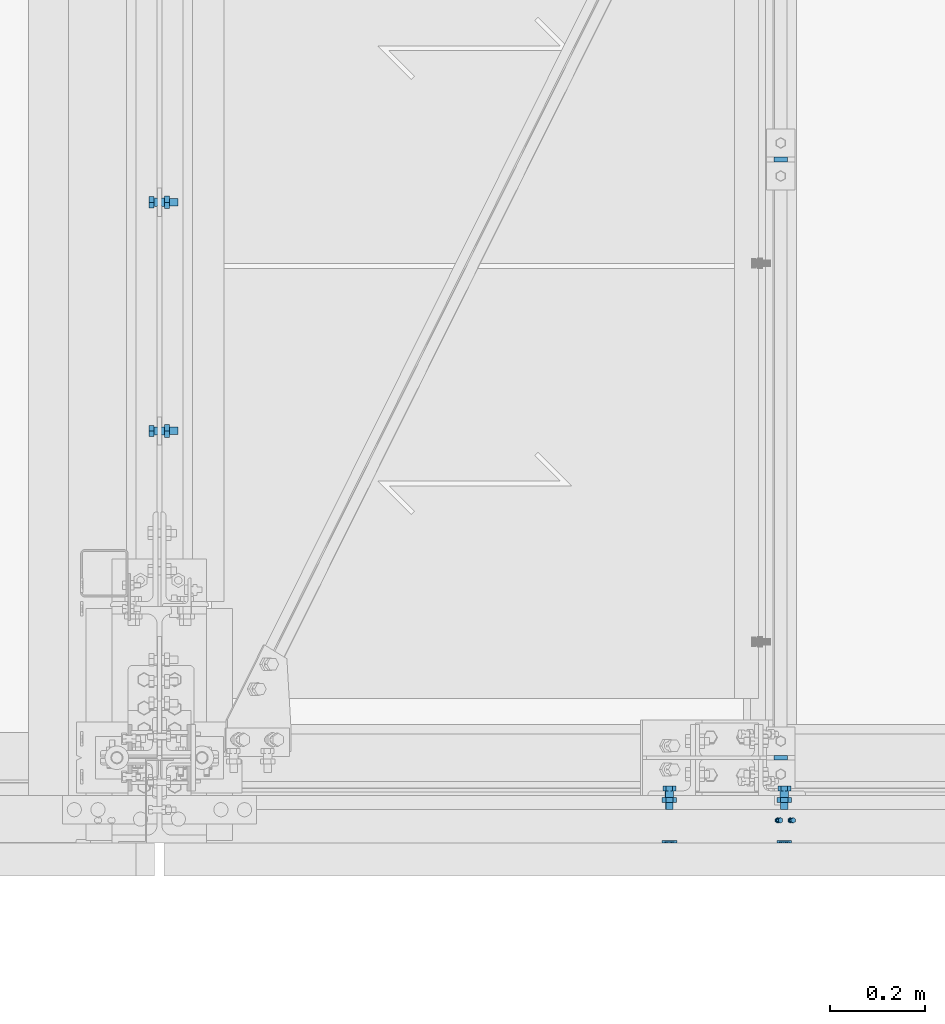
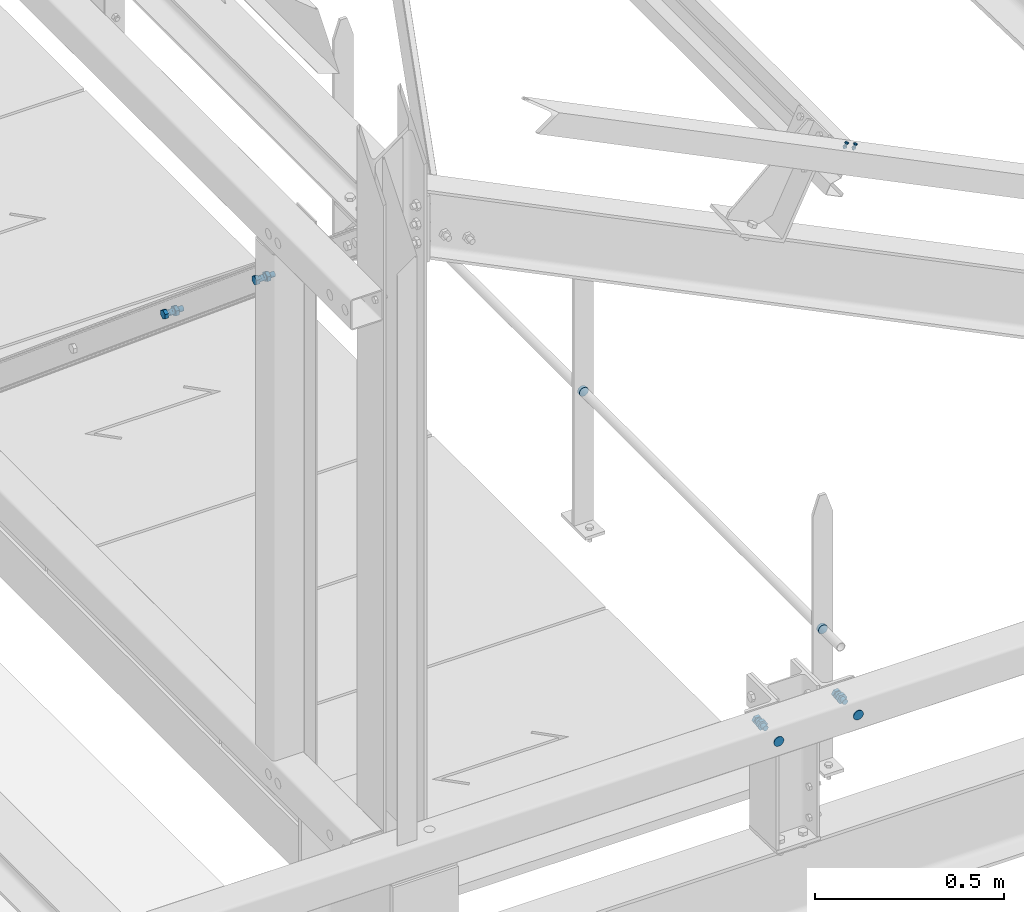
# One storey, part 310 of 362: 9 mechanical fasteners.
"""IFC2X3 building model written with IfcOpenShell, lengths in millimetres."""

from ifc_helpers import new_model, si_unit, frame, origin_with_axes, origin_2d_with_axis, place, context, subcontext, project, spatial, polyline, circle, outline, extrude, source, transform, mapped, material, type_object, element, save


model = new_model("IFC2X3")

# Units and contexts
model_context = context("Model", 3, precision=1e-05, world=origin_with_axes())
body_context = subcontext(model_context, "Body", "Model", "MODEL_VIEW")
ifc_project = project(units=[si_unit("LENGTHUNIT", "METRE", prefix="MILLI"), si_unit("AREAUNIT", "SQUARE_METRE"), si_unit("VOLUMEUNIT", "CUBIC_METRE"), si_unit("MASSUNIT", "GRAM", prefix="KILO"), si_unit("TIMEUNIT", "SECOND"), si_unit("PLANEANGLEUNIT", "RADIAN"), si_unit("SOLIDANGLEUNIT", "STERADIAN"), si_unit("THERMODYNAMICTEMPERATUREUNIT", "DEGREE_CELSIUS"), si_unit("LUMINOUSINTENSITYUNIT", "LUMEN")], contexts=[model_context])

# Site, building, storey
site_placement = place(None, origin_with_axes())
site = spatial("IfcSite", under=ifc_project, at=site_placement, Name="Undefined", CompositionType="ELEMENT")
building_placement = place(site_placement, origin_with_axes())
building = spatial("IfcBuilding", under=site, at=building_placement, Name="Undefined", CompositionType="ELEMENT")
storey_placement = place(building_placement, origin_with_axes())
storey = spatial("IfcBuildingStorey", under=building, at=storey_placement, Name="Undefined", CompositionType="ELEMENT", Elevation=0.0)

# Mechanical fasteners
ifc_material_1 = material(Name="6.8")
mechanical_fastener_type = type_object("IfcMechanicalFastenerType", Name="Bolt assembly")
shared_shape_1 = source(origin_with_axes(), body_context, "Body", "SweptSolid", [
    extrude(circle(Radius=15.0, at=origin_2d_with_axis()), frame((0.0, -3.99999923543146, 0.0), z_axis=(0.0, 1.0, 0.0), x_axis=(1.0, 0.0, 0.0)), (0.0, 0.0, 1.0), 4.1),
])
for number, where, z_axis, x_axis, name in (
    (1, (35601.4917140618, -180.0, 8500.0), (0.0, 0.0, 1.0), (-1.0, 0.0, 0.0), "Bolt assembly"),
    (2, (35358.4917140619, -180.0, 8500.0), (0.0, 0.0, -1.0), (1.0, 0.0, 0.0), "Bolt assembly"),
):
    element("IfcMechanicalFastener", number, at=place(storey_placement, frame(where, z_axis=z_axis, x_axis=x_axis)), inside=storey, type_object=mechanical_fastener_type, material=ifc_material_1, Name=name, NominalDiameter=30.0, NominalLength=4.0, context=body_context, shape_type="MappedRepresentation", body=[
        mapped(shared_shape_1, transform((0.0, 0.0, 0.0))),
    ])
ifc_material_2 = material(Name="8.8-SB-ZINGUE")
shared_shape_2 = source(origin_with_axes(), body_context, "Body", "SweptSolid", [
    extrude(circle(Radius=9.0, at=origin_2d_with_axis()), frame((0.0, -10.9000000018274, 0.0), z_axis=(0.0, 1.0, 0.0), x_axis=(1.0, 0.0, 0.0)), (0.0, 0.0, 1.0), 6.0),
    extrude(circle(Radius=9.0, at=origin_2d_with_axis()), frame((0.0, 4.9000000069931, 0.0), z_axis=(0.0, 1.0, 0.0), x_axis=(1.0, 0.0, 0.0)), (0.0, 0.0, 1.0), 6.1),
    extrude(circle(Radius=9.0, at=origin_2d_with_axis()), frame((0.0, -3.99999923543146, 0.0), z_axis=(0.0, 1.0, 0.0), x_axis=(1.0, 0.0, 0.0)), (0.0, 0.0, 1.0), 8.0),
    extrude(outline(polyline([(13.85640646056, 0.0), (6.92820323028, 12.0000000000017), (-6.92820323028, 12.0000000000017), (-13.85640646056, 0.0), (-6.92820323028, -12.0000000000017), (6.92820323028, -12.0000000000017), (13.85640646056, 0.0)])), frame((0.0, -21.5600000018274, 0.0), z_axis=(0.0, 1.0, 0.0), x_axis=(1.0, 0.0, 0.0)), (0.0, 0.0, 1.0), 10.56),
    extrude(circle(Radius=8.0, at=origin_2d_with_axis()), frame((0.0, -11.0000000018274, 0.0), z_axis=(0.0, 1.0, 0.0), x_axis=(1.0, 0.0, 0.0)), (0.0, 0.0, 1.0), 50.0),
    extrude(outline(polyline([(15.3344231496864, 0.0), (7.6672115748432, 13.2800000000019), (-7.6672115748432, 13.2800000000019), (-15.3344231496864, 0.0), (-7.6672115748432, -13.2800000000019), (7.6672115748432, -13.2800000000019), (15.3344231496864, 0.0)])), frame((0.0, 11.0000000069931, 0.0), z_axis=(0.0, 1.0, 0.0), x_axis=(1.0, 0.0, 0.0)), (0.0, 0.0, 1.0), 10.56),
])
for number, where, z_axis, x_axis, name in (
    (3, (34280.0, 690.897340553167, 9846.10450176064), (0.0, 1.0, 0.0), (0.0, 0.0, 1.0), "Bolt assembly"),
    (4, (34280.0, 1174.53950978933, 9442.26270393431), (0.0, 1.0, 0.0), (0.0, 0.0, 1.0), "Bolt assembly"),
):
    element("IfcMechanicalFastener", number, at=place(storey_placement, frame(where, z_axis=z_axis, x_axis=x_axis)), inside=storey, type_object=mechanical_fastener_type, material=ifc_material_2, Name=name, NominalDiameter=16.0, NominalLength=50.0, context=body_context, shape_type="MappedRepresentation", body=[
        mapped(shared_shape_2, transform((0.0, 0.0, 0.0))),
    ])
shared_shape_3 = source(origin_with_axes(), body_context, "Body", "SweptSolid", [
    extrude(circle(Radius=14.0, at=origin_2d_with_axis()), frame((0.0, -5.00000000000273, 0.0), z_axis=(0.0, 1.0, 0.0), x_axis=(1.0, 0.0, 0.0)), (0.0, 0.0, 1.0), 10.1),
])
for number, where, z_axis, x_axis, name in (
    (5, (35593.991712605, -2.965598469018e-07, 8673.8000065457), (0.0, 0.0, 1.0), (-1.0, 0.0, 0.0), "Bolt assembly"),
    (6, (35593.991712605, 1265.00343252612, 8673.8000065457), (0.0, 0.0, 1.0), (-1.0, 0.0, 0.0), "Bolt assembly"),
):
    element("IfcMechanicalFastener", number, at=place(storey_placement, frame(where, z_axis=z_axis, x_axis=x_axis)), inside=storey, type_object=mechanical_fastener_type, material=ifc_material_1, Name=name, NominalDiameter=27.0, NominalLength=10.0, context=body_context, shape_type="MappedRepresentation", body=[
        mapped(shared_shape_3, transform((0.0, 0.0, 0.0))),
    ])
shared_shape_4 = source(origin_with_axes(), body_context, "Body", "SweptSolid", [
    extrude(circle(Radius=9.0, at=origin_2d_with_axis()), frame((0.0, -0.100011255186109, 0.0), z_axis=(0.0, 1.0, 0.0), x_axis=(1.0, 0.0, 0.0)), (0.0, 0.0, 1.0), 4.1),
    extrude(circle(Radius=9.0, at=origin_2d_with_axis()), frame((0.0, -9.9, 0.0), z_axis=(0.0, 1.0, 0.0), x_axis=(1.0, 0.0, 0.0)), (0.0, 0.0, 1.0), 10.0),
    extrude(outline(polyline([(13.85640646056, 0.0), (6.92820323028, 12.0000000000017), (-6.92820323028, 12.0000000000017), (-13.85640646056, 0.0), (-6.92820323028, -12.0000000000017), (6.92820323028, -12.0000000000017), (13.85640646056, 0.0)])), frame((0.0, -20.5600000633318, 0.0), z_axis=(0.0, 1.0, 0.0), x_axis=(1.0, 0.0, 0.0)), (0.0, 0.0, 1.0), 10.56),
    extrude(circle(Radius=8.0, at=origin_2d_with_axis()), frame((0.0, -10.0000010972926, 0.0), z_axis=(0.0, 1.0, 0.0), x_axis=(1.0, 0.0, 0.0)), (0.0, 0.0, 1.0), 40.0),
    extrude(outline(polyline([(15.3344231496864, 0.0), (7.6672115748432, 13.2800000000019), (-7.6672115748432, 13.2800000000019), (-15.3344231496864, 0.0), (-7.6672115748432, -13.2800000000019), (7.6672115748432, -13.2800000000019), (15.3344231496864, 0.0)])), frame((0.0, 4.00000005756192, 0.0), z_axis=(0.0, 1.0, 0.0), x_axis=(1.0, 0.0, 0.0)), (0.0, 0.0, 1.0), 10.56),
])
for number, where, z_axis, x_axis, name in (
    (7, (35601.4917140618, -80.0, 8500.0), (0.0, 0.0, 1.0), (-1.0, 0.0, 0.0), "Bolt assembly"),
    (8, (35358.4917140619, -80.0, 8500.0), (0.0, 0.0, -1.0), (1.0, 0.0, 0.0), "Bolt assembly"),
):
    element("IfcMechanicalFastener", number, at=place(storey_placement, frame(where, z_axis=z_axis, x_axis=x_axis)), inside=storey, type_object=mechanical_fastener_type, material=ifc_material_2, Name=name, NominalDiameter=16.0, NominalLength=40.0, context=body_context, shape_type="MappedRepresentation", body=[
        mapped(shared_shape_4, transform((0.0, 0.0, 0.0))),
    ])
shared_shape_5 = source(origin_with_axes(), body_context, "Body", "SweptSolid", [
    extrude(circle(Radius=4.0, at=origin_2d_with_axis()), frame((0.0, 0.0, 0.0), z_axis=(0.0, 1.0, 0.0), x_axis=(1.0, 0.0, 0.0)), (0.0, 0.0, 1.0), 7.1),
    extrude(outline(polyline([(5.7735026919, 0.0), (2.88675134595, 5.00000000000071), (-2.88675134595, 5.00000000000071), (-5.7735026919, 0.0), (-2.88675134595, -5.00000000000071), (2.88675134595, -5.00000000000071), (5.7735026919, 0.0)])), frame((0.0, -3.99999923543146, 0.0), z_axis=(0.0, 1.0, 0.0), x_axis=(1.0, 0.0, 0.0)), (0.0, 0.0, 1.0), 4.0),
    extrude(circle(Radius=3.0, at=origin_2d_with_axis()), frame((0.0, 0.0, 0.0), z_axis=(0.0, 1.0, 0.0), x_axis=(1.0, 0.0, 0.0)), (0.0, 0.0, 1.0), 16.0),
    extrude(outline(polyline([(5.7735026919, 0.0), (2.88675134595, 5.00000000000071), (-2.88675134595, 5.00000000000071), (-5.7735026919, 0.0), (-2.88675134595, -5.00000000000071), (2.88675134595, -5.00000000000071), (5.7735026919, 0.0)])), frame((0.0, 7.0, 0.0), z_axis=(0.0, 1.0, 0.0), x_axis=(1.0, 0.0, 0.0)), (0.0, 0.0, 1.0), 5.2),
])
mechanical_fastener_placement = place(storey_placement, frame((35605.2962302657, -132.49992038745, 10314.3426601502), z_axis=(-0.897397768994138, 0.0, 0.441222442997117), x_axis=(0.0, 1.0, 0.0)))
element("IfcMechanicalFastener", 9, at=mechanical_fastener_placement, inside=storey, type_object=mechanical_fastener_type, material=ifc_material_1, Name="Bolt assembly", NominalDiameter=6.0, NominalLength=16.0, context=body_context, shape_type="MappedRepresentation", body=[
    mapped(shared_shape_5, transform((0.0, 0.0, -15.0))),
    mapped(shared_shape_5, transform((0.0, -3.63797880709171e-12, 15.0000000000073))),
])

save(model, "model.ifc")
